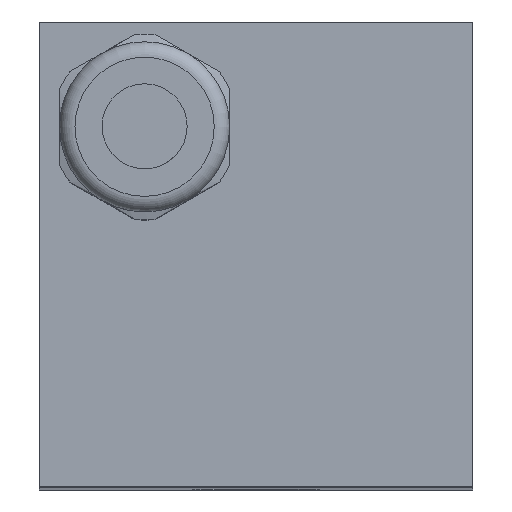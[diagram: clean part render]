
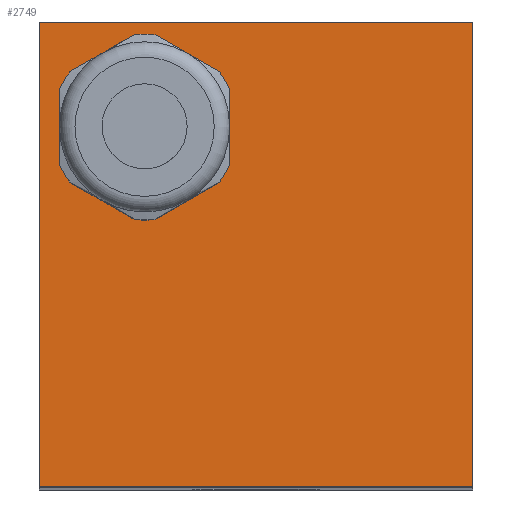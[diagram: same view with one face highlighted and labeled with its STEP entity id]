
A CAD part, top view. The second image highlights one B-rep face of the part: STEP entity #2749.
In plain terms, the highlighted planar face has unit normal (0, 0, 1).
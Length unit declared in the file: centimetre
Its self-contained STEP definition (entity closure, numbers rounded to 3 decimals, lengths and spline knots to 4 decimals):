
#541=CIRCLE('',#2897,0.3459);
#712=VERTEX_POINT('',#4014);
#745=VERTEX_POINT('',#4096);
#746=VERTEX_POINT('',#4098);
#750=VERTEX_POINT('',#4107);
#754=VERTEX_POINT('',#4120);
#952=VECTOR('',#3366,1.);
#957=VECTOR('',#3372,1.);
#962=VECTOR('',#3381,1.);
#964=VECTOR('',#3384,1.);
#1120=LINE('',#4097,#952);
#1125=LINE('',#4108,#957);
#1130=LINE('',#4119,#962);
#1132=LINE('',#4124,#964);
#1323=EDGE_CURVE('',#712,#712,#541,.T.);
#1351=EDGE_CURVE('',#745,#746,#1120,.T.);
#1358=EDGE_CURVE('',#750,#745,#1125,.T.);
#1365=EDGE_CURVE('',#746,#754,#1130,.T.);
#1369=EDGE_CURVE('',#754,#750,#1132,.T.);
#1845=ORIENTED_EDGE('',*,*,#1323,.T.);
#1846=ORIENTED_EDGE('',*,*,#1365,.F.);
#1847=ORIENTED_EDGE('',*,*,#1351,.F.);
#1848=ORIENTED_EDGE('',*,*,#1358,.F.);
#1849=ORIENTED_EDGE('',*,*,#1369,.F.);
#2348=EDGE_LOOP('',(#1845));
#2349=EDGE_LOOP('',(#1846,#1847,#1848,#1849));
#2567=FACE_BOUND('',#2348,.T.);
#2568=FACE_BOUND('',#2349,.T.);
#2749=ADVANCED_FACE('',(#2567,#2568),#4711,.T.);
#2897=AXIS2_PLACEMENT_3D('',#4013,#3273,#3274);
#2947=AXIS2_PLACEMENT_3D('',#4126,#3386,$);
#3273=DIRECTION('',(0.,0.,-1.));
#3274=DIRECTION('',(0.,0.346,0.));
#3366=DIRECTION('',(0.,1.,0.));
#3372=DIRECTION('',(-1.,0.,0.));
#3381=DIRECTION('',(1.,0.,0.));
#3384=DIRECTION('',(0.,-1.,0.));
#3386=DIRECTION('',(0.,0.,1.));
#4013=CARTESIAN_POINT('',(-0.72,0.82,7.));
#4014=CARTESIAN_POINT('',(-0.72,1.1659,7.));
#4096=CARTESIAN_POINT('',(-1.4,-1.5,7.));
#4097=CARTESIAN_POINT('',(-1.4,1.5,7.));
#4098=CARTESIAN_POINT('',(-1.4,1.5,7.));
#4107=CARTESIAN_POINT('',(1.4,-1.5,7.));
#4108=CARTESIAN_POINT('',(-1.4,-1.5,7.));
#4119=CARTESIAN_POINT('',(1.4,1.5,7.));
#4120=CARTESIAN_POINT('',(1.4,1.5,7.));
#4124=CARTESIAN_POINT('',(1.4,-1.5,7.));
#4126=CARTESIAN_POINT('',(0.,0.,7.));
#4711=PLANE('',#2947);
